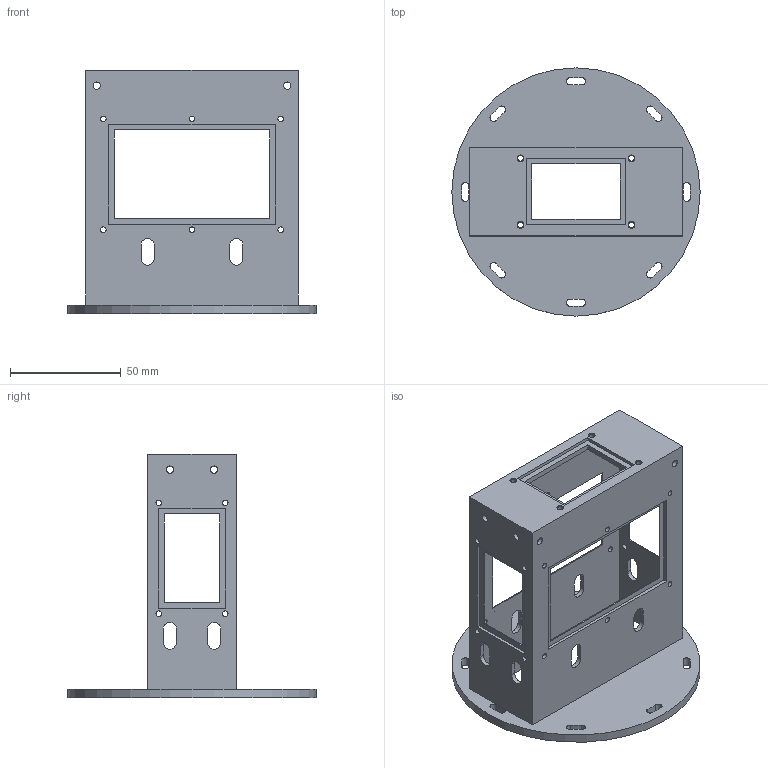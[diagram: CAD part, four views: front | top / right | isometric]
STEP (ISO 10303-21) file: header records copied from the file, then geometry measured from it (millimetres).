
FILE_DESCRIPTION(/* description */ (''),/* implementation_level */ '2;1');
FILE_NAME(/* name */ '',/* time_stamp */ '2026-05-15T16:12:00+08:00',/* author */ ('32769'),/* organization */ (''),/* preprocessor_version */ 'ST-DEVELOPER v20',/* originating_system */ 'Autodesk Inventor 2025',/* authorisation */ '');
FILE_SCHEMA (('AUTOMOTIVE_DESIGN { 1 0 10303 214 3 1 1 }'));
Length unit declared in the file: millimetre
Products named in the file (1): 4K-方
Bounding box: 112 x 112 x 110 mm (x, y, z)
Volume: 70608.1 mm3; surface area: 61896.8 mm2
Topology: 1 solids, 1 shells, 158 faces, 443 edges, 294 vertices
Faces by surface type: cylinder 81, plane 73, cone 4
Full cylindrical faces by diameter (mm): 2.5 x24, 3.3 x8, 112 x1
Entity records: 5396 total; most frequent: DIRECTION 927, CARTESIAN_POINT 896, ORIENTED_EDGE 886, EDGE_CURVE 443, AXIS2_PLACEMENT_3D 325, VERTEX_POINT 294, LINE 277, VECTOR 277
